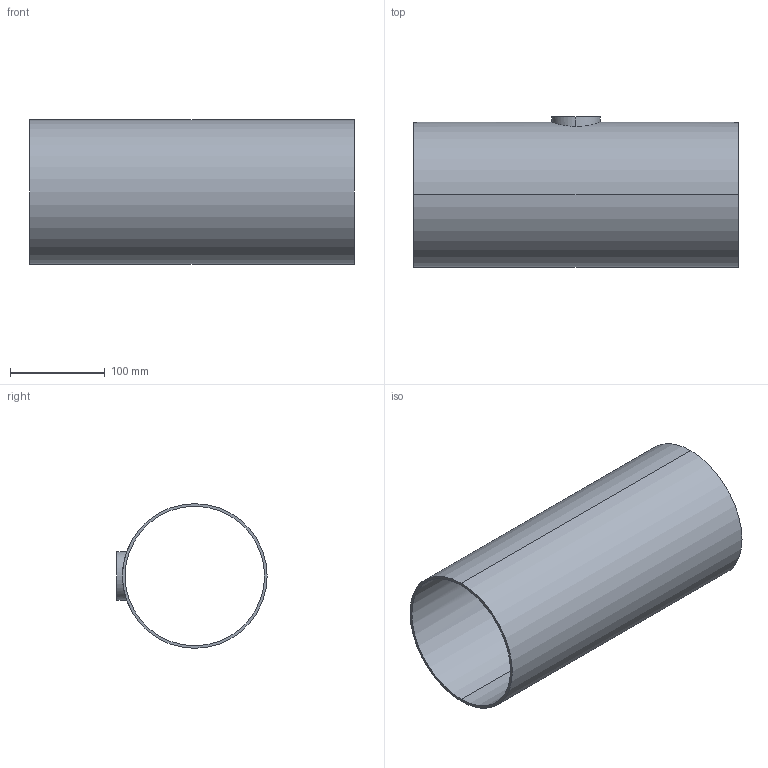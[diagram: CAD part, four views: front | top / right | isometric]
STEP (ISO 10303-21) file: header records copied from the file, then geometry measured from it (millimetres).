
FILE_DESCRIPTION (( 'STEP AP214' ), '1' );
FILE_NAME ('TEG7RS6L6.0x2.0-...STEP', '2016-05-24T11:26:11', ( 'eran' ), ( '' ), 'SwSTEP 2.0', 'SolidWorks 2016', '' );
FILE_SCHEMA (( 'AUTOMOTIVE_DESIGN' ));
Length unit declared in the file: millimetre
Products named in the file (1): TEG7RS6L6.0x2.0-..
Bounding box: 342 x 158.3 x 152.4 mm (x, y, z)
Volume: 442368.3 mm3; surface area: 323412 mm2
Topology: 1 solids, 1 shells, 11 faces, 24 edges, 16 vertices
Faces by surface type: cylinder 8, plane 3
Entity records: 556 total; most frequent: CARTESIAN_POINT 264, DIRECTION 56, ORIENTED_EDGE 48, EDGE_CURVE 24, AXIS2_PLACEMENT_3D 24, VERTEX_POINT 16, EDGE_LOOP 16, CIRCLE 12
